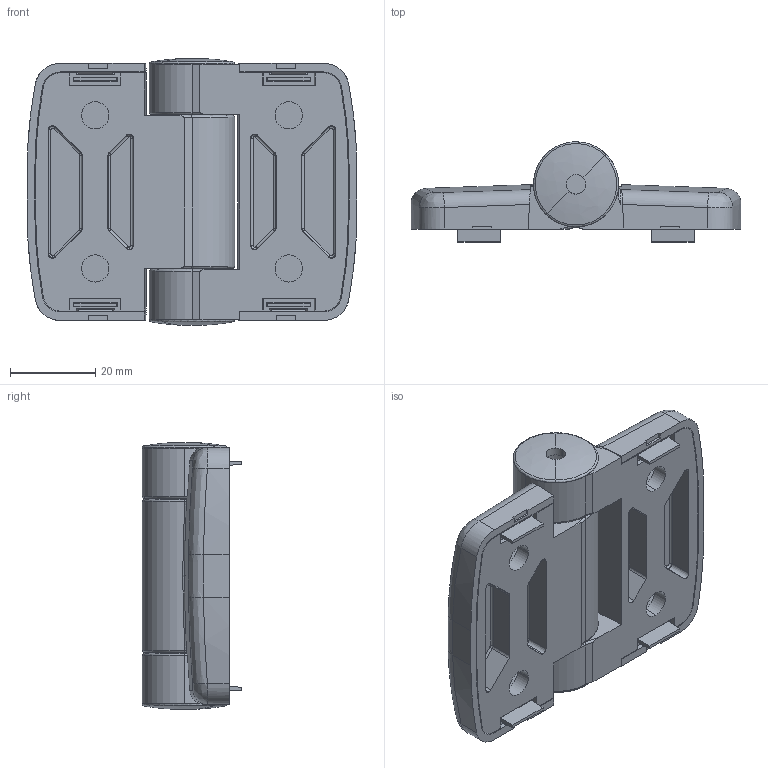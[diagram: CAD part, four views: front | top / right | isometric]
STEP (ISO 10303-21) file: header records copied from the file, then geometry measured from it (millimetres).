
FILE_DESCRIPTION(('STEP AP214'),'1');
FILE_NAME('fath_095sf4040a10.stp','2018-06-26T08:06:17',('TraceParts'),('TraceParts S.A.'),'Spatial InterOp 3D',' ',' ');
FILE_SCHEMA(('automotive_design'));
Length unit declared in the file: millimetre
Products named in the file (9): fath_095sf4040a10_1; fath_095sf4040a10_2; fath_095sf4040a10_3; fath_095sf4040a10_4; fath_095sf4040a10_5; fath_095sf4040a10_6; fath_095sf4040a10_7; fath_095sf4040a10_8; fath_095sf4040a10_9
Bounding box: 77.5 x 23.5 x 62.76 mm (x, y, z)
Volume: 42870 mm3; surface area: 36592.5 mm2
Topology: 9 solids, 9 shells, 730 faces, 1826 edges, 1122 vertices
Faces by surface type: plane 254, cylinder 212, bspline 191, cone 73
Entity records: 31582 total; most frequent: CARTESIAN_POINT 9134, ORIENTED_EDGE 3622, DIRECTION 3237, EDGE_CURVE 1811, AXIS2_PLACEMENT_3D 1169, VERTEX_POINT 1122, LINE 899, VECTOR 899
